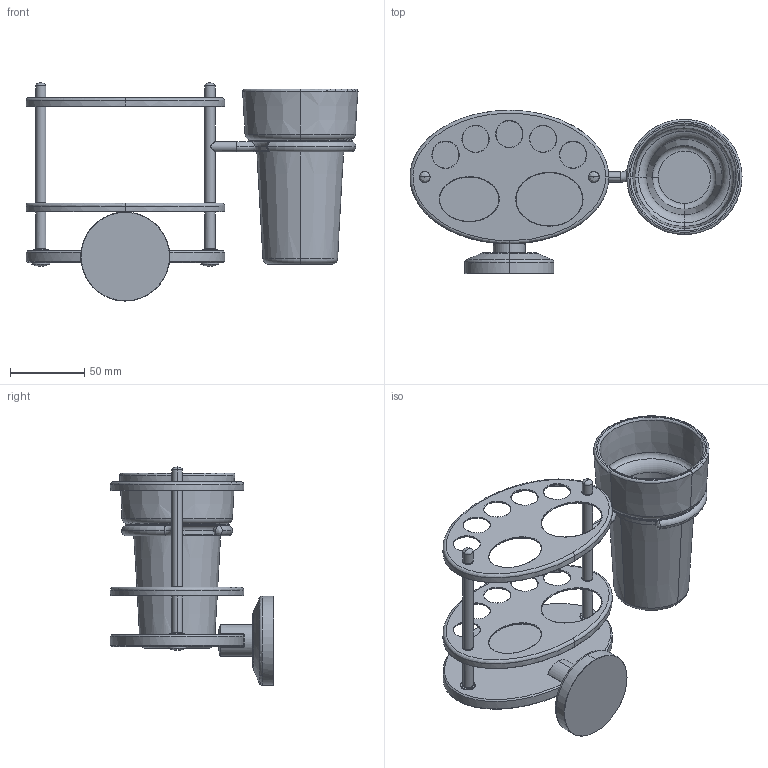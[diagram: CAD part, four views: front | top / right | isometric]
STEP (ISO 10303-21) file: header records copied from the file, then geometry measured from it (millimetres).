
FILE_DESCRIPTION(('THIS FILE CONTAINS SOME STEP INSTANCES'),'1');
FILE_NAME('sta_061.stp','2015-12-09T 8:31:22',('UNDEFINED'),('UNDEFINED'),'T-FLEX CAD STEP converter','T-FLEX CAD','');
FILE_SCHEMA(('CONFIG_CONTROL_DESIGN'));
Length unit declared in the file: metre
Products named in the file (5): 3D 鐨飹懤艜_22; 3D 鐨飹懤艜_19; 3D 鐨飹懤艜_31; 610103; 610102
Bounding box: 223.89 x 110 x 147.1 mm (x, y, z)
Volume: 244407.8 mm3; surface area: 122983.3 mm2
Topology: 5 solids, 5 shells, 304 faces, 651 edges, 375 vertices
Faces by surface type: cone 98, cylinder 60, bspline 48, plane 45, torus 32, extrusion 14, sphere 7
Entity records: 20307 total; most frequent: CARTESIAN_POINT 14674, ORIENTED_EDGE 1302, DIRECTION 922, EDGE_CURVE 651, VERTEX_POINT 375, EDGE_LOOP 358, AXIS2_PLACEMENT_3D 349, ADVANCED_FACE 304
